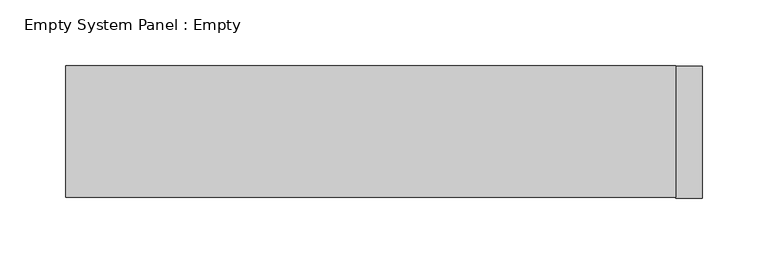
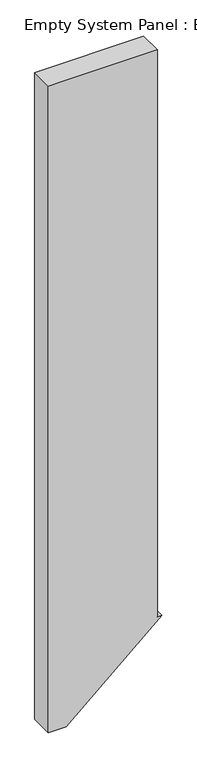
"""IFC4 building model written with IfcOpenShell, lengths in millimetres: plate geometry, Empty System Panel : Empty."""

from ifc_helpers import new_model, si_unit, frame, origin, place, context, project, spatial, polyline, outline, extrude, source, transform, mapped, element, save


def empty_system_panel_empty_6ab3820b(model_context):
    return source(origin(), model_context, "Body", "SweptSolid", [
        extrude(outline(polyline([(0.0, -241.7391304), (0.0, -166.6760279), (358.5169564, 241.7391304), (358.5169564, 221.7391304), (2906.3195938, 221.7391304), (2906.3195938, -241.7391304), (0.0, -241.7391304)])), frame((0.0, -50.0, 0.0), z_axis=(0.0, 1.0, 0.0), x_axis=(0.0, 0.0, 1.0)), (0.0, 0.0, 1.0), 100.0),
    ])


if __name__ == "__main__":
    model = new_model("IFC4")
    model_context = context("Model", 3, world=origin())
    ifc_project = project(units=[si_unit("LENGTHUNIT", "METRE", prefix="MILLI")], contexts=[model_context])
    site = spatial("IfcSite", under=ifc_project)
    building = spatial("IfcBuilding", under=site)
    placement = place(None, origin())
    empty_system_panel_empty_shape = empty_system_panel_empty_6ab3820b(model_context)
    element("IfcPlate", 1, ObjectType="Empty System Panel : Empty", at=placement, inside=building, context=model_context, shape_type="MappedRepresentation", body=[
        mapped(empty_system_panel_empty_shape, transform((0.0, 0.0, 0.0), x_axis=(1.0, 0.0, 0.0), y_axis=(0.0, 1.0, 0.0), z_axis=(0.0, 0.0, 1.0))),
    ])
    save(model, "model.ifc")
